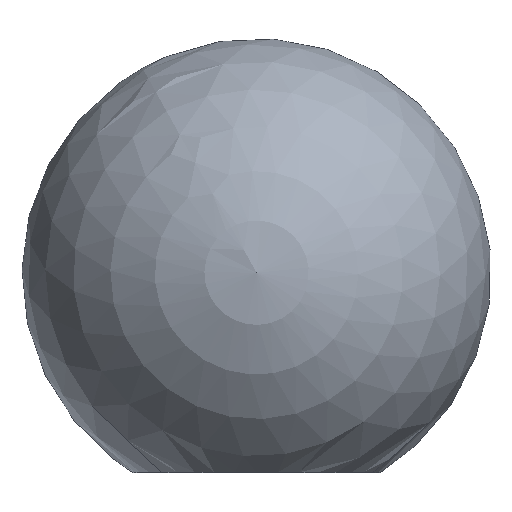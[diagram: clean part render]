
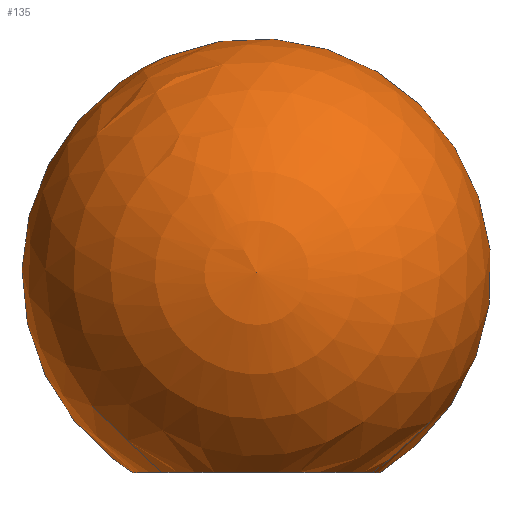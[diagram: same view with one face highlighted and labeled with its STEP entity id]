
A CAD part, top view. The second image highlights one B-rep face of the part: STEP entity #135.
In plain terms, the highlighted spherical face has radius 20 mm.
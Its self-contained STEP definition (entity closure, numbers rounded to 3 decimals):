
#4 = CIRCLE ( 'NONE', #34, 10.536 ) ;
#17 = CARTESIAN_POINT ( 'NONE',  ( 0., 0., 0. ) ) ;
#20 = EDGE_LOOP ( 'NONE', ( #44 ) ) ;
#34 = AXIS2_PLACEMENT_3D ( 'NONE', #17, #134, #79 ) ;
#44 = ORIENTED_EDGE ( 'NONE', *, *, #117, .F. ) ;
#47 = FACE_OUTER_BOUND ( 'NONE', #20, .T. ) ;
#54 = CARTESIAN_POINT ( 'NONE',  ( 0., 0., -10.536 ) ) ;
#57 = SPHERICAL_SURFACE ( 'NONE', #148, 20. ) ;
#61 = CARTESIAN_POINT ( 'NONE',  ( 0., 17., 0. ) ) ;
#79 = DIRECTION ( 'NONE',  ( 0., 0., -1. ) ) ;
#105 = DIRECTION ( 'NONE',  ( 0., 0., 1. ) ) ;
#117 = EDGE_CURVE ( 'NONE', #171, #171, #4, .T. ) ;
#134 = DIRECTION ( 'NONE',  ( 0., -1., 0. ) ) ;
#135 = ADVANCED_FACE ( 'NONE', ( #47 ), #57, .T. ) ;
#148 = AXIS2_PLACEMENT_3D ( 'NONE', #61, #105, #167 ) ;
#167 = DIRECTION ( 'NONE',  ( 1., 0., 0. ) ) ;
#171 = VERTEX_POINT ( 'NONE', #54 ) ;
